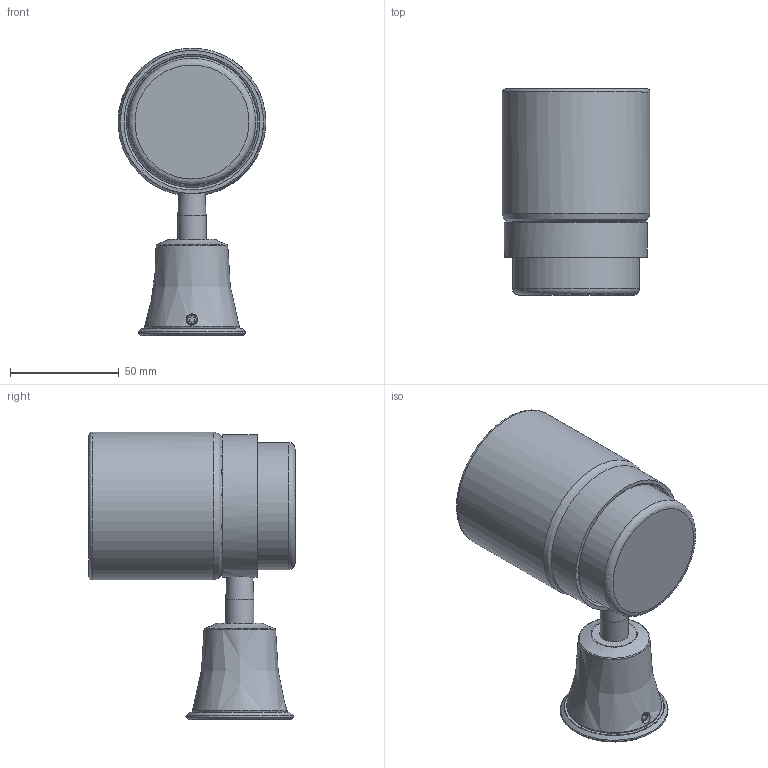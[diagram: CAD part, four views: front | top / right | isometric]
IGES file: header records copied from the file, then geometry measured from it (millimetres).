
Global section: file name: bdfc038f-c141-433b-b48b-91002aa1940b; native system: unknown; preprocessor: unknown; author: unknown; organization: unknown; date: 20200107.143126; units: millimetre
Bounding box: 67.94 x 95 x 132.38 mm (x, y, z)
Volume: 111656.5 mm3; surface area: 61695.7 mm2
Topology: 5 solids, 5 shells, 54 faces, 160 edges, 119 vertices
Faces by surface type: bspline 54
